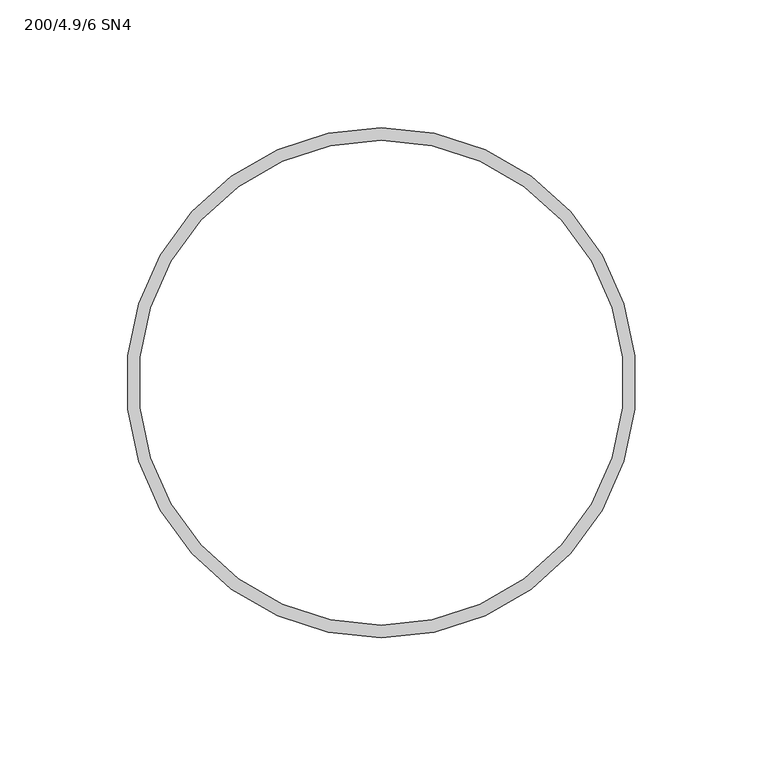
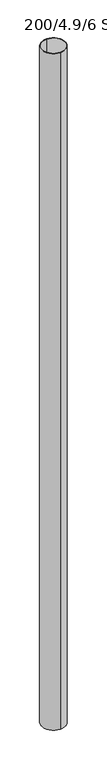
"""IFC4 building model written with IfcOpenShell, lengths in millimetres: valve geometry, Pipelife - Studnia PRO - PVC Rura kanal. trzonowa 200 : 200/4.9/6 SN4."""

from ifc_helpers import new_model, si_unit, point, origin, origin_with_axes, origin_2d, place, context, project, spatial, circle_curve, trimmed, segment, composite_curve, outline, extrude, source, transform, mapped, element, save


def valve_200_4_9_6_sn4_cd438cc4(model_context):
    return source(origin(), model_context, "Body", "SweptSolid", [
        extrude(outline(composite_curve([segment(trimmed(circle_curve(origin_2d(), 100.0), [point((0.0, 100.0))], [point((0.0, -100.0))], False, "CARTESIAN"), True, "CONTINUOUS"), segment(trimmed(circle_curve(origin_2d(), 100.0), [point((0.0, -100.0))], [point((0.0, 100.0))], False, "CARTESIAN"), True, "CONTINUOUS")], self_intersect=False), holes=[composite_curve([segment(trimmed(circle_curve(origin_2d(), 95.0), [point((0.0, 95.0))], [point((0.0, -95.0))], True, "CARTESIAN"), True, "CONTINUOUS"), segment(trimmed(circle_curve(origin_2d(), 95.0), [point((0.0, -95.0))], [point((0.0, 95.0))], True, "CARTESIAN"), True, "CONTINUOUS")], self_intersect=False)]), origin_with_axes(), (0.0, 0.0, 1.0), 6000.0),
    ])


if __name__ == "__main__":
    model = new_model("IFC4")
    model_context = context("Model", 3, world=origin())
    ifc_project = project(units=[si_unit("LENGTHUNIT", "METRE", prefix="MILLI")], contexts=[model_context])
    site = spatial("IfcSite", under=ifc_project)
    building = spatial("IfcBuilding", under=site)
    placement = place(None, origin())
    valve_200_4_9_6_sn4_shape = valve_200_4_9_6_sn4_cd438cc4(model_context)
    element("IfcValve", 1, ObjectType="Pipelife - Studnia PRO - PVC Rura kanal. trzonowa 200 : 200/4.9/6 SN4", at=placement, inside=building, context=model_context, shape_type="MappedRepresentation", body=[
        mapped(valve_200_4_9_6_sn4_shape, transform((0.0, 0.0, 0.0), x_axis=(1.0, 0.0, 0.0), y_axis=(0.0, 1.0, 0.0), z_axis=(0.0, 0.0, 1.0))),
    ])
    save(model, "model.ifc")
